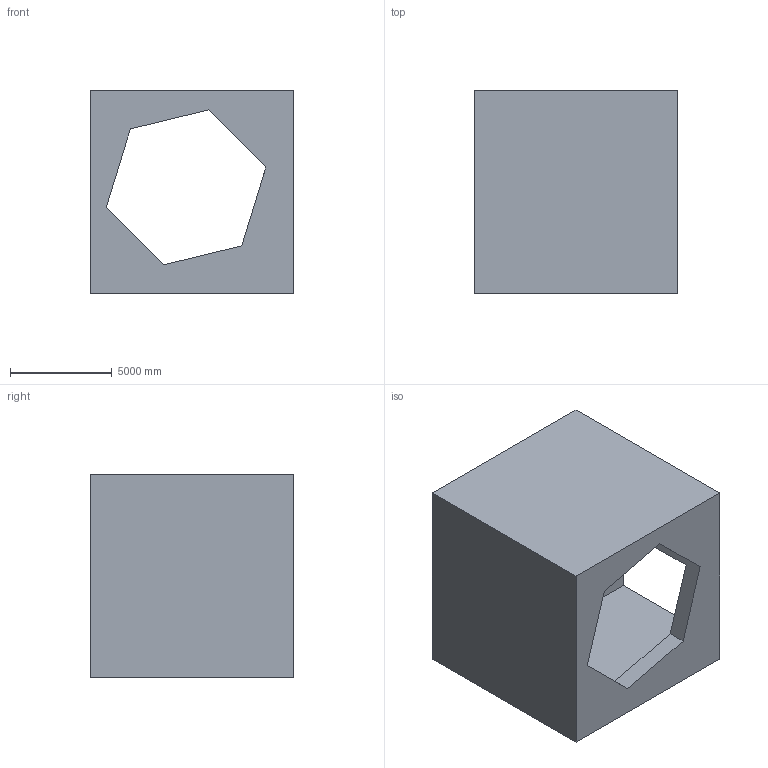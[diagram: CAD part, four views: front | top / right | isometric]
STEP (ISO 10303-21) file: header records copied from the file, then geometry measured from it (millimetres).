
FILE_DESCRIPTION (( 'STEP AP203' ), '1' );
FILE_NAME ('62.STEP', '2022-07-28T13:31:24', ( 'user' ), ( '' ), 'SwSTEP 2.0', 'SolidWorks 2021', '' );
FILE_SCHEMA (( 'CONFIG_CONTROL_DESIGN' ));
Length unit declared in the file: centimetre
Products named in the file (1): 62
Bounding box: 10000 x 10000 x 10000 mm (x, y, z)
Volume: 497079051269.6 mm3; surface area: 766577654.2 mm2
Topology: 1 solids, 1 shells, 18 faces, 51 edges, 34 vertices
Faces by surface type: plane 18
Entity records: 660 total; most frequent: CARTESIAN_POINT 104, ORIENTED_EDGE 102, DIRECTION 89, EDGE_CURVE 51, VECTOR 51, LINE 51, VERTEX_POINT 34, EDGE_LOOP 21
